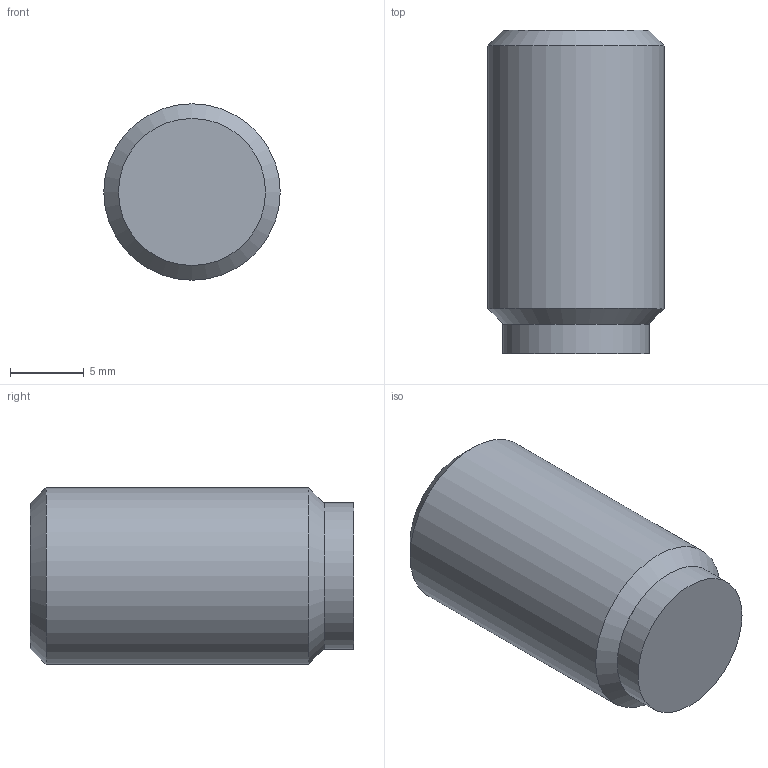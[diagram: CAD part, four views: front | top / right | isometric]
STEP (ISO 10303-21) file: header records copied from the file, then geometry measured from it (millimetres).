
FILE_DESCRIPTION( ( 'STEP AP203' ), '1' );
FILE_NAME( 'C:/Temp/Ganter_Step_05_03_2020/data/3_2/gn913_3/Grub screw GN 913.3-M12-20-MS.stp', '2020-03-13T05:35:53', ( 'License CC BY-ND 4.0' ), ( 'CADENAS' ), ' ', 'PARTsolutions', ' ' );
FILE_SCHEMA( ( 'CONFIG_CONTROL_DESIGN' ) );
Length unit declared in the file: millimetre
Products named in the file (1): _Grub screw GN 913.3-M12-20-MS
Bounding box: 12 x 22 x 12 mm (x, y, z)
Volume: 2128.8 mm3; surface area: 1163.5 mm2
Topology: 1 solids, 1 shells, 14 faces, 28 edges, 18 vertices
Faces by surface type: plane 10, cylinder 2, cone 2
Full cylindrical faces by diameter (mm): 10 x1, 12 x1
Entity records: 386 total; most frequent: DIRECTION 60, CARTESIAN_POINT 57, ORIENTED_EDGE 48, EDGE_CURVE 24, AXIS2_PLACEMENT_3D 21, EDGE_LOOP 20, VERTEX_POINT 18, LINE 18
